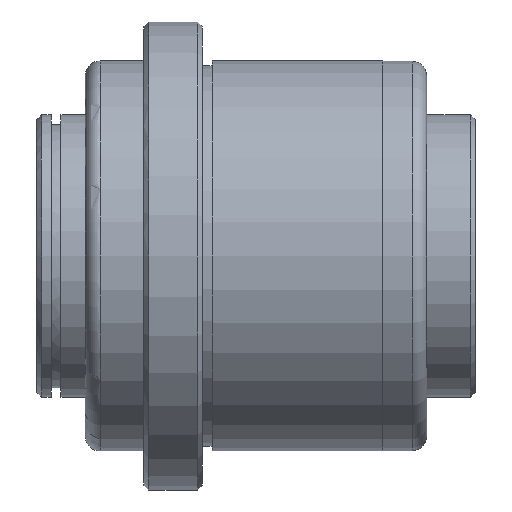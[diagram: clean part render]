
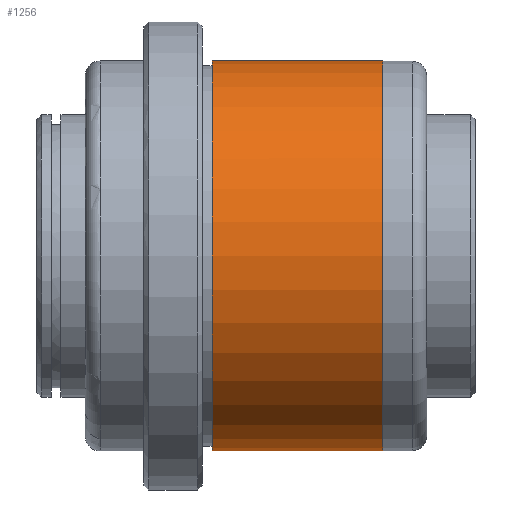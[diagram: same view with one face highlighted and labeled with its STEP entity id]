
A CAD part, front view. The second image highlights one B-rep face of the part: STEP entity #1256.
In plain terms, the highlighted cylindrical face has radius 20 mm (diameter 40 mm), a partial arc.
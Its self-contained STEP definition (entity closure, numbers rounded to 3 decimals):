
#1090=CARTESIAN_POINT('Vertex',(30.5,0.,20.)) ;
#1093=CARTESIAN_POINT('Axis2P3D Location',(30.5,0.,0.)) ;
#1097=CARTESIAN_POINT('Vertex',(30.5,-20.,0.)) ;
#1100=CARTESIAN_POINT('Axis2P3D Location',(30.5,0.,0.)) ;
#1104=CARTESIAN_POINT('Vertex',(30.5,0.,-20.)) ;
#1196=CARTESIAN_POINT('Line Origine',(35.,0.,20.)) ;
#1200=CARTESIAN_POINT('Vertex',(13.,0.,20.)) ;
#1203=CARTESIAN_POINT('Line Origine',(35.,0.,-20.)) ;
#1207=CARTESIAN_POINT('Vertex',(13.,0.,-20.)) ;
#1231=CARTESIAN_POINT('Axis2P3D Location',(35.,0.,0.)) ;
#1236=CARTESIAN_POINT('Axis2P3D Location',(13.,0.,0.)) ;
#1240=CARTESIAN_POINT('Vertex',(13.,-20.,0.)) ;
#1243=CARTESIAN_POINT('Axis2P3D Location',(13.,0.,0.)) ;
#1094=DIRECTION('Axis2P3D Direction',(1.,0.,-0.)) ;
#1101=DIRECTION('Axis2P3D Direction',(1.,0.,-0.)) ;
#1197=DIRECTION('Vector Direction',(-1.,0.,0.)) ;
#1204=DIRECTION('Vector Direction',(-1.,0.,0.)) ;
#1232=DIRECTION('Axis2P3D Direction',(-1.,-0.,-0.)) ;
#1233=DIRECTION('Axis2P3D XDirection',(0.,0.,-1.)) ;
#1237=DIRECTION('Axis2P3D Direction',(-1.,-0.,-0.)) ;
#1244=DIRECTION('Axis2P3D Direction',(-1.,-0.,-0.)) ;
#1095=AXIS2_PLACEMENT_3D('Circle Axis2P3D',#1093,#1094,$) ;
#1102=AXIS2_PLACEMENT_3D('Circle Axis2P3D',#1100,#1101,$) ;
#1234=AXIS2_PLACEMENT_3D('Cylinder Axis2P3D',#1231,#1232,#1233) ;
#1238=AXIS2_PLACEMENT_3D('Circle Axis2P3D',#1236,#1237,$) ;
#1245=AXIS2_PLACEMENT_3D('Circle Axis2P3D',#1243,#1244,$) ;
#1249=ORIENTED_EDGE('',*,*,#1209,.T.) ;
#1250=ORIENTED_EDGE('',*,*,#1106,.F.) ;
#1251=ORIENTED_EDGE('',*,*,#1099,.F.) ;
#1252=ORIENTED_EDGE('',*,*,#1202,.T.) ;
#1253=ORIENTED_EDGE('',*,*,#1242,.T.) ;
#1254=ORIENTED_EDGE('',*,*,#1247,.T.) ;
#1198=VECTOR('Line Direction',#1197,1.) ;
#1205=VECTOR('Line Direction',#1204,1.) ;
#1256=ADVANCED_FACE('_Bussola_N065_24_35',(#1255),#1235,.T.) ;
#1096=CIRCLE('generated circle',#1095,20.) ;
#1103=CIRCLE('generated circle',#1102,20.) ;
#1239=CIRCLE('generated circle',#1238,20.) ;
#1246=CIRCLE('generated circle',#1245,20.) ;
#1235=CYLINDRICAL_SURFACE('generated cylinder',#1234,20.) ;
#1099=EDGE_CURVE('',#1091,#1098,#1096,.T.) ;
#1106=EDGE_CURVE('',#1098,#1105,#1103,.T.) ;
#1202=EDGE_CURVE('',#1091,#1201,#1199,.T.) ;
#1209=EDGE_CURVE('',#1208,#1105,#1206,.F.) ;
#1242=EDGE_CURVE('',#1201,#1241,#1239,.F.) ;
#1247=EDGE_CURVE('',#1241,#1208,#1246,.F.) ;
#1248=EDGE_LOOP('',(#1249,#1250,#1251,#1252,#1253,#1254)) ;
#1255=FACE_OUTER_BOUND('',#1248,.T.) ;
#1199=LINE('Line',#1196,#1198) ;
#1206=LINE('Line',#1203,#1205) ;
#1091=VERTEX_POINT('',#1090) ;
#1098=VERTEX_POINT('',#1097) ;
#1105=VERTEX_POINT('',#1104) ;
#1201=VERTEX_POINT('',#1200) ;
#1208=VERTEX_POINT('',#1207) ;
#1241=VERTEX_POINT('',#1240) ;
